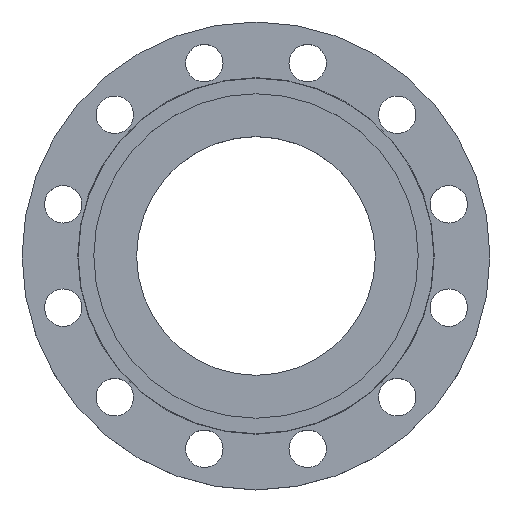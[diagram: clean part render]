
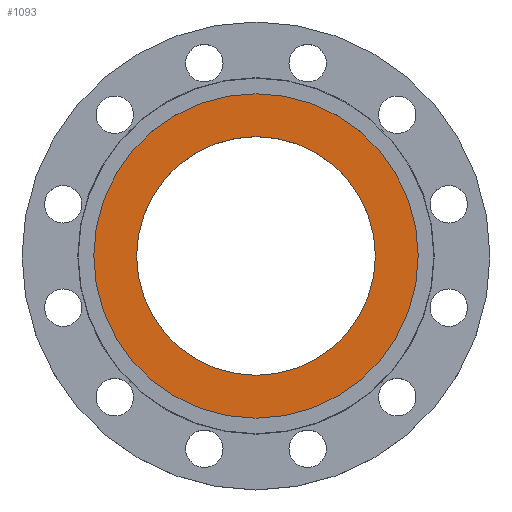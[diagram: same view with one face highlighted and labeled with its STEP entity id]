
A CAD part, top view. The second image highlights one B-rep face of the part: STEP entity #1093.
In plain terms, the highlighted planar face has unit normal (0, 0, 1).
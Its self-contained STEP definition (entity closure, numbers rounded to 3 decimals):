
#39 = CARTESIAN_POINT ( 'NONE',  ( -95.67, 0., -4.5 ) ) ;
#131 = DIRECTION ( 'NONE',  ( 1., 0., 0. ) ) ;
#132 = DIRECTION ( 'NONE',  ( 0., 0., 1. ) ) ;
#135 = CARTESIAN_POINT ( 'NONE',  ( 0., 0., -4.5 ) ) ;
#151 = CARTESIAN_POINT ( 'NONE',  ( -130., 0., -4.5 ) ) ;
#172 = AXIS2_PLACEMENT_3D ( 'NONE', #535, #534, #533 ) ;
#188 = EDGE_CURVE ( 'NONE', #1142, #1264, #838, .T. ) ;
#189 = CARTESIAN_POINT ( 'NONE',  ( 95.67, 0., -4.5 ) ) ;
#216 = CIRCLE ( 'NONE', #221, 95.67 ) ;
#221 = AXIS2_PLACEMENT_3D ( 'NONE', #490, #489, #487 ) ;
#298 = CARTESIAN_POINT ( 'NONE',  ( 130., 0., -4.5 ) ) ;
#320 = AXIS2_PLACEMENT_3D ( 'NONE', #347, #345, #344 ) ;
#344 = DIRECTION ( 'NONE',  ( 1., 0., 0. ) ) ;
#345 = DIRECTION ( 'NONE',  ( 0., 0., 1. ) ) ;
#347 = CARTESIAN_POINT ( 'NONE',  ( 130., 0., -4.5 ) ) ;
#348 = PLANE ( 'NONE',  #320 ) ;
#351 = FACE_OUTER_BOUND ( 'NONE', #1392, .T. ) ;
#352 = FACE_BOUND ( 'NONE', #1201, .T. ) ;
#487 = DIRECTION ( 'NONE',  ( 1., 0., 0. ) ) ;
#489 = DIRECTION ( 'NONE',  ( 0., 0., 1. ) ) ;
#490 = CARTESIAN_POINT ( 'NONE',  ( 0., 0., -4.5 ) ) ;
#498 = AXIS2_PLACEMENT_3D ( 'NONE', #755, #754, #751 ) ;
#533 = DIRECTION ( 'NONE',  ( -1., 0., 0. ) ) ;
#534 = DIRECTION ( 'NONE',  ( 0., 0., -1. ) ) ;
#535 = CARTESIAN_POINT ( 'NONE',  ( 0., 0., -4.5 ) ) ;
#751 = DIRECTION ( 'NONE',  ( -1., 0., 0. ) ) ;
#754 = DIRECTION ( 'NONE',  ( 0., 0., -1. ) ) ;
#755 = CARTESIAN_POINT ( 'NONE',  ( 0., 0., -4.5 ) ) ;
#838 = CIRCLE ( 'NONE', #498, 130. ) ;
#900 = EDGE_CURVE ( 'NONE', #1264, #1142, #908, .T. ) ;
#908 = CIRCLE ( 'NONE', #172, 130. ) ;
#946 = EDGE_CURVE ( 'NONE', #1221, #1300, #216, .T. ) ;
#988 = AXIS2_PLACEMENT_3D ( 'NONE', #135, #132, #131 ) ;
#991 = CIRCLE ( 'NONE', #988, 95.67 ) ;
#1012 = ORIENTED_EDGE ( 'NONE', *, *, #946, .F. ) ;
#1013 = ORIENTED_EDGE ( 'NONE', *, *, #1279, .F. ) ;
#1014 = ORIENTED_EDGE ( 'NONE', *, *, #900, .F. ) ;
#1015 = ORIENTED_EDGE ( 'NONE', *, *, #188, .F. ) ;
#1093 = ADVANCED_FACE ( 'NONE', ( #352, #351 ), #348, .T. ) ;
#1142 = VERTEX_POINT ( 'NONE', #298 ) ;
#1201 = EDGE_LOOP ( 'NONE', ( #1012, #1013 ) ) ;
#1221 = VERTEX_POINT ( 'NONE', #189 ) ;
#1264 = VERTEX_POINT ( 'NONE', #151 ) ;
#1279 = EDGE_CURVE ( 'NONE', #1300, #1221, #991, .T. ) ;
#1300 = VERTEX_POINT ( 'NONE', #39 ) ;
#1392 = EDGE_LOOP ( 'NONE', ( #1014, #1015 ) ) ;
